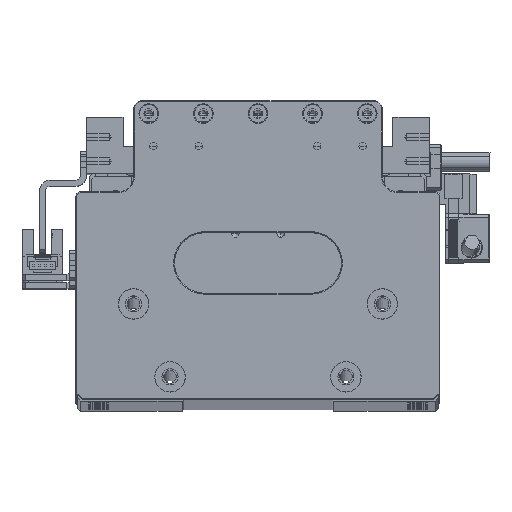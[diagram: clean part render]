
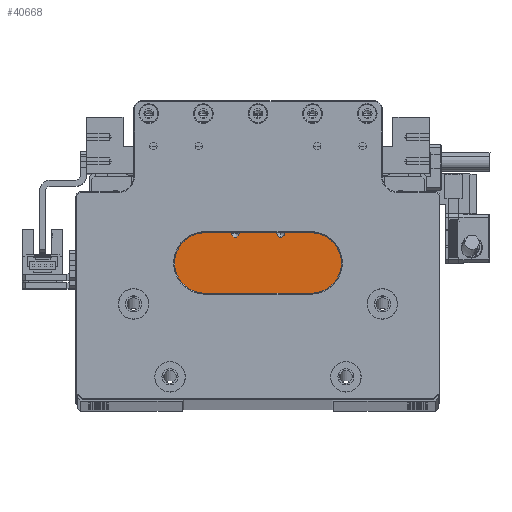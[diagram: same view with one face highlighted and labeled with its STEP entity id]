
A CAD part, top view. The second image highlights one B-rep face of the part: STEP entity #40668.
In plain terms, the highlighted planar face has unit normal (0, 0, 1).
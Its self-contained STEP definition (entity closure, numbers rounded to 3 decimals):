
#221 = DIRECTION ( 'NONE',  ( 0., -1., 0. ) ) ;
#364 = CARTESIAN_POINT ( 'NONE',  ( -10.882, -17.023, 375. ) ) ;
#605 = CARTESIAN_POINT ( 'NONE',  ( -4.632, -17.023, 375. ) ) ;
#832 = VERTEX_POINT ( 'NONE', #55773 ) ;
#939 = ORIENTED_EDGE ( 'NONE', *, *, #50307, .T. ) ;
#1328 = VERTEX_POINT ( 'NONE', #52195 ) ;
#2145 = EDGE_LOOP ( 'NONE', ( #114737, #939 ) ) ;
#2836 = DIRECTION ( 'NONE',  ( 0., 0., -1. ) ) ;
#3120 = VERTEX_POINT ( 'NONE', #84993 ) ;
#3600 = LINE ( 'NONE', #70330, #101408 ) ;
#4486 = CARTESIAN_POINT ( 'NONE',  ( 1.618, -17.023, 375. ) ) ;
#8168 = CARTESIAN_POINT ( 'NONE',  ( -34.432, -9.023, 375. ) ) ;
#8999 = LINE ( 'NONE', #8168, #86262 ) ;
#9858 = VERTEX_POINT ( 'NONE', #118607 ) ;
#9868 = ORIENTED_EDGE ( 'NONE', *, *, #101884, .T. ) ;
#10003 = ORIENTED_EDGE ( 'NONE', *, *, #31331, .T. ) ;
#10959 = EDGE_CURVE ( 'NONE', #34210, #102502, #127897, .T. ) ;
#11663 = AXIS2_PLACEMENT_3D ( 'NONE', #32558, #123400, #62987 ) ;
#12560 = AXIS2_PLACEMENT_3D ( 'NONE', #63196, #2836, #73355 ) ;
#12972 = FACE_BOUND ( 'NONE', #2145, .T. ) ;
#14574 = VECTOR ( 'NONE', #101541, 1000. ) ;
#15870 = VECTOR ( 'NONE', #58971, 1000. ) ;
#17887 = DIRECTION ( 'NONE',  ( 0., -1., 0. ) ) ;
#18520 = CIRCLE ( 'NONE', #12560, 1.25 ) ;
#20347 = LINE ( 'NONE', #100497, #40794 ) ;
#20785 = CARTESIAN_POINT ( 'NONE',  ( 2.868, -17.023, 375. ) ) ;
#23023 = VECTOR ( 'NONE', #110005, 1000. ) ;
#25697 = CARTESIAN_POINT ( 'NONE',  ( -12.132, -17.023, 375. ) ) ;
#26525 = EDGE_LOOP ( 'NONE', ( #82235, #105077 ) ) ;
#29027 = CARTESIAN_POINT ( 'NONE',  ( 4.118, -17.023, 375. ) ) ;
#30867 = DIRECTION ( 'NONE',  ( 1., 0., 0. ) ) ;
#31331 = EDGE_CURVE ( 'NONE', #3120, #832, #44470, .T. ) ;
#31707 = VERTEX_POINT ( 'NONE', #116530 ) ;
#32558 = CARTESIAN_POINT ( 'NONE',  ( -4.632, -9.023, 375. ) ) ;
#34210 = VERTEX_POINT ( 'NONE', #364 ) ;
#35815 = DIRECTION ( 'NONE',  ( 1., 0., 0. ) ) ;
#36147 = VERTEX_POINT ( 'NONE', #55346 ) ;
#36594 = FACE_OUTER_BOUND ( 'NONE', #69782, .T. ) ;
#40171 = VERTEX_POINT ( 'NONE', #4486 ) ;
#40668 = ADVANCED_FACE ( 'NONE', ( #36594, #12972, #90324 ), #52874, .T. ) ;
#40794 = VECTOR ( 'NONE', #80686, 1000. ) ;
#41929 = AXIS2_PLACEMENT_3D ( 'NONE', #49854, #120373, #60002 ) ;
#42196 = VERTEX_POINT ( 'NONE', #58670 ) ;
#42662 = LINE ( 'NONE', #109208, #15870 ) ;
#42916 = EDGE_CURVE ( 'NONE', #36147, #1328, #3600, .T. ) ;
#44470 = LINE ( 'NONE', #58862, #124950 ) ;
#48395 = EDGE_CURVE ( 'NONE', #50748, #9858, #8999, .T. ) ;
#49854 = CARTESIAN_POINT ( 'NONE',  ( -12.132, -17.023, 375. ) ) ;
#50307 = EDGE_CURVE ( 'NONE', #40171, #78564, #18520, .T. ) ;
#50748 = VERTEX_POINT ( 'NONE', #121334 ) ;
#52195 = CARTESIAN_POINT ( 'NONE',  ( -23.132, -17.023, 375. ) ) ;
#52874 = PLANE ( 'NONE',  #11663 ) ;
#53033 = LINE ( 'NONE', #99860, #23023 ) ;
#54665 = VECTOR ( 'NONE', #90321, 1000. ) ;
#55346 = CARTESIAN_POINT ( 'NONE',  ( -23.132, -9.223, 375. ) ) ;
#55773 = CARTESIAN_POINT ( 'NONE',  ( 13.868, -17.023, 375. ) ) ;
#58670 = CARTESIAN_POINT ( 'NONE',  ( 25.168, -49.223, 375. ) ) ;
#58862 = CARTESIAN_POINT ( 'NONE',  ( -4.632, -17.023, 375. ) ) ;
#58971 = DIRECTION ( 'NONE',  ( 0., 1., 0. ) ) ;
#60002 = DIRECTION ( 'NONE',  ( 1., 0., 0. ) ) ;
#60727 = AXIS2_PLACEMENT_3D ( 'NONE', #20785, #91293, #30867 ) ;
#62987 = DIRECTION ( 'NONE',  ( 1., 0., 0. ) ) ;
#63196 = CARTESIAN_POINT ( 'NONE',  ( 2.868, -17.023, 375. ) ) ;
#65918 = AXIS2_PLACEMENT_3D ( 'NONE', #25697, #96227, #35815 ) ;
#68239 = LINE ( 'NONE', #605, #14574 ) ;
#68790 = ORIENTED_EDGE ( 'NONE', *, *, #116753, .T. ) ;
#69010 = DIRECTION ( 'NONE',  ( -1., 0., 0. ) ) ;
#69782 = EDGE_LOOP ( 'NONE', ( #68790, #90371, #9868, #94236, #77871, #82694, #10003, #94693 ) ) ;
#70330 = CARTESIAN_POINT ( 'NONE',  ( -23.132, -9.023, 375. ) ) ;
#72377 = CARTESIAN_POINT ( 'NONE',  ( -13.382, -17.023, 375. ) ) ;
#73355 = DIRECTION ( 'NONE',  ( 1., 0., 0. ) ) ;
#77871 = ORIENTED_EDGE ( 'NONE', *, *, #98354, .T. ) ;
#78564 = VERTEX_POINT ( 'NONE', #29027 ) ;
#80686 = DIRECTION ( 'NONE',  ( 0., 1., 0. ) ) ;
#82235 = ORIENTED_EDGE ( 'NONE', *, *, #10959, .T. ) ;
#82694 = ORIENTED_EDGE ( 'NONE', *, *, #105085, .T. ) ;
#84993 = CARTESIAN_POINT ( 'NONE',  ( 25.168, -17.023, 375. ) ) ;
#86262 = VECTOR ( 'NONE', #17887, 1000. ) ;
#90321 = DIRECTION ( 'NONE',  ( 1., 0., 0. ) ) ;
#90324 = FACE_BOUND ( 'NONE', #26525, .T. ) ;
#90371 = ORIENTED_EDGE ( 'NONE', *, *, #42916, .T. ) ;
#91293 = DIRECTION ( 'NONE',  ( 0., 0., -1. ) ) ;
#93409 = CIRCLE ( 'NONE', #41929, 1.25 ) ;
#94236 = ORIENTED_EDGE ( 'NONE', *, *, #48395, .T. ) ;
#94693 = ORIENTED_EDGE ( 'NONE', *, *, #103763, .T. ) ;
#96227 = DIRECTION ( 'NONE',  ( 0., 0., -1. ) ) ;
#98354 = EDGE_CURVE ( 'NONE', #9858, #42196, #111476, .T. ) ;
#99860 = CARTESIAN_POINT ( 'NONE',  ( -4.632, -9.223, 375. ) ) ;
#100497 = CARTESIAN_POINT ( 'NONE',  ( 25.168, -9.023, 375. ) ) ;
#101408 = VECTOR ( 'NONE', #221, 1000. ) ;
#101541 = DIRECTION ( 'NONE',  ( -1., 0., 0. ) ) ;
#101884 = EDGE_CURVE ( 'NONE', #1328, #50748, #68239, .T. ) ;
#102502 = VERTEX_POINT ( 'NONE', #72377 ) ;
#103763 = EDGE_CURVE ( 'NONE', #832, #31707, #42662, .T. ) ;
#105077 = ORIENTED_EDGE ( 'NONE', *, *, #109816, .T. ) ;
#105085 = EDGE_CURVE ( 'NONE', #42196, #3120, #20347, .T. ) ;
#109208 = CARTESIAN_POINT ( 'NONE',  ( 13.868, -9.023, 375. ) ) ;
#109816 = EDGE_CURVE ( 'NONE', #102502, #34210, #93409, .T. ) ;
#110005 = DIRECTION ( 'NONE',  ( -1., 0., 0. ) ) ;
#111476 = LINE ( 'NONE', #130442, #54665 ) ;
#114737 = ORIENTED_EDGE ( 'NONE', *, *, #115277, .T. ) ;
#115277 = EDGE_CURVE ( 'NONE', #78564, #40171, #120950, .T. ) ;
#116530 = CARTESIAN_POINT ( 'NONE',  ( 13.868, -9.223, 375. ) ) ;
#116753 = EDGE_CURVE ( 'NONE', #31707, #36147, #53033, .T. ) ;
#118607 = CARTESIAN_POINT ( 'NONE',  ( -34.432, -49.223, 375. ) ) ;
#120373 = DIRECTION ( 'NONE',  ( 0., 0., -1. ) ) ;
#120950 = CIRCLE ( 'NONE', #60727, 1.25 ) ;
#121334 = CARTESIAN_POINT ( 'NONE',  ( -34.432, -17.023, 375. ) ) ;
#123400 = DIRECTION ( 'NONE',  ( 0., 0., 1. ) ) ;
#124950 = VECTOR ( 'NONE', #69010, 1000. ) ;
#127897 = CIRCLE ( 'NONE', #65918, 1.25 ) ;
#130442 = CARTESIAN_POINT ( 'NONE',  ( -34.632, -49.223, 375. ) ) ;
